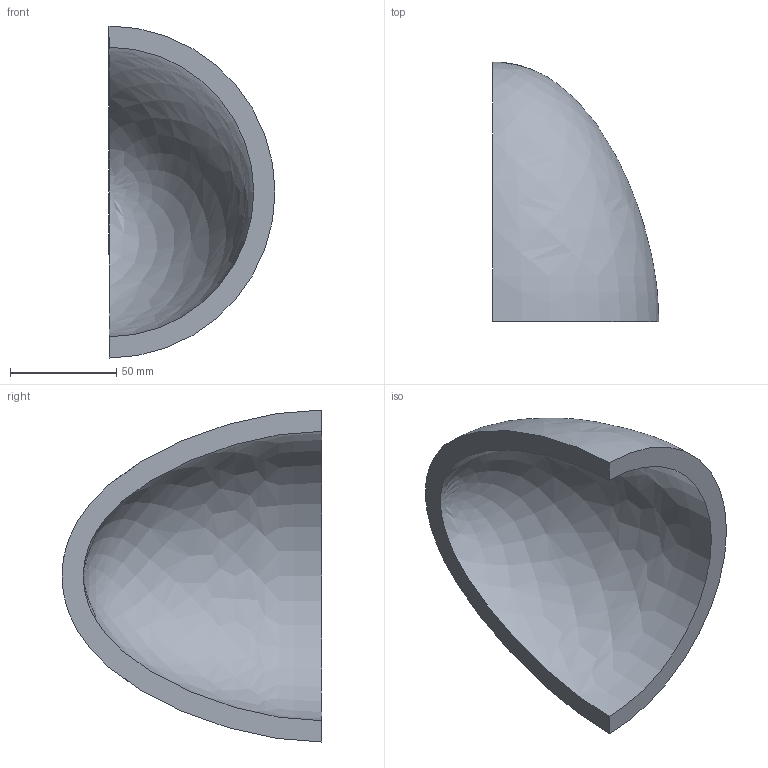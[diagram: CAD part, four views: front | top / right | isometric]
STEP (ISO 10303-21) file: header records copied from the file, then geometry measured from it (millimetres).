
FILE_DESCRIPTION(('CATIA V5 STEP Exchange'),'2;1');
FILE_NAME('C:\_Andres\UNIVERSIDAD\IQS\ASIGNATURAS\DAO\EXF\EXF-16172c\2inicio\Pascual_Sarrias_Ej10_v22.stp','2017-03-05T22:31:13+00:00',('none'),('none'),'CATIA Version 5-6 Release 2014 SP1 HF18','CATIA V5 STEP AP203','none');
FILE_SCHEMA(('CONFIG_CONTROL_DESIGN'));
Length unit declared in the file: millimetre
Products named in the file (1): Pascual_Sarrias_Ej10_v22
Bounding box: 78 x 122 x 156 mm (x, y, z)
Volume: 231368.8 mm3; surface area: 51669.7 mm2
Topology: 1 solids, 1 shells, 4 faces, 10 edges, 6 vertices
Faces by surface type: revolution 2, plane 2
Entity records: 248 total; most frequent: CARTESIAN_POINT 126, ORIENTED_EDGE 16, DIRECTION 10, EDGE_CURVE 8, B_SPLINE_CURVE_WITH_KNOTS 6, VERTEX_POINT 6, AXIS2_PLACEMENT_3D 5, ADVANCED_FACE 4
